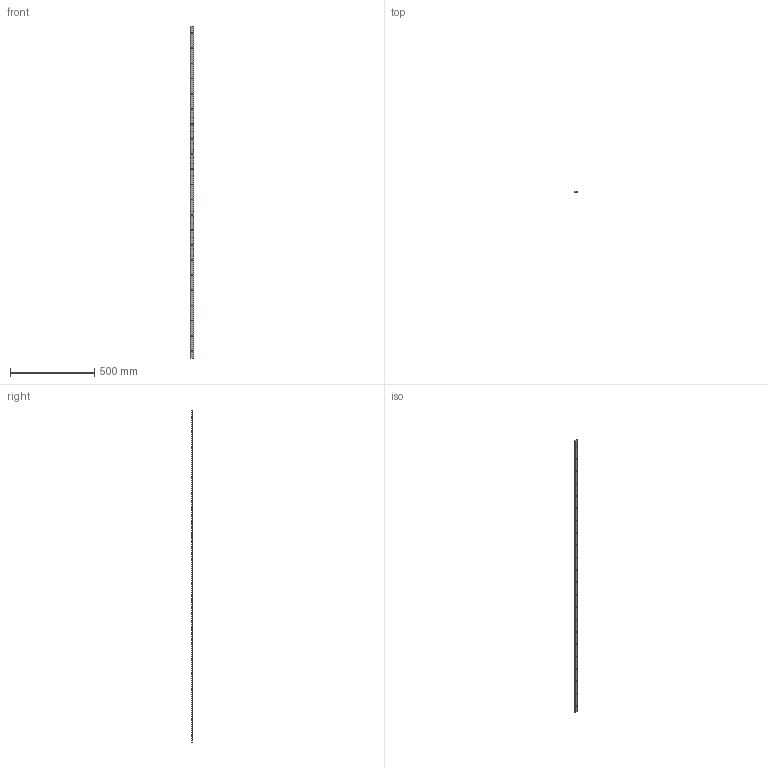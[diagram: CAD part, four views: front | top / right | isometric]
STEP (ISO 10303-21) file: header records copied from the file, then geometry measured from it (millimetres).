
FILE_DESCRIPTION(('STEP AP203'),'1');
FILE_NAME('slide_v20l1976p1.stp','2022-07-01T05:55:48',('TraceParts'),('TraceParts S.A.'),'Spatial InterOp 3D',' ',' ');
FILE_SCHEMA(('CONFIG_CONTROL_DESIGN'));
Length unit declared in the file: millimetre
Products named in the file (1): 1
Bounding box: 19.24 x 4.27 x 1976 mm (x, y, z)
Volume: 143582.7 mm3; surface area: 83785.5 mm2
Topology: 1 solids, 1 shells, 56 faces, 162 edges, 108 vertices
Faces by surface type: cylinder 48, plane 8
Entity records: 2034 total; most frequent: DIRECTION 372, CARTESIAN_POINT 327, ORIENTED_EDGE 324, EDGE_CURVE 162, AXIS2_PLACEMENT_3D 153, VERTEX_POINT 108, EDGE_LOOP 100, CIRCLE 96
